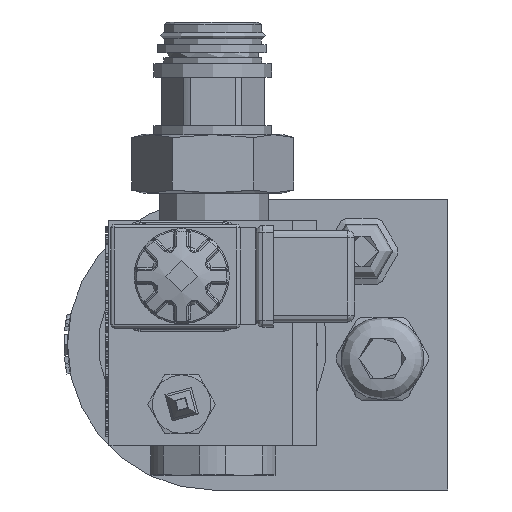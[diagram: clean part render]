
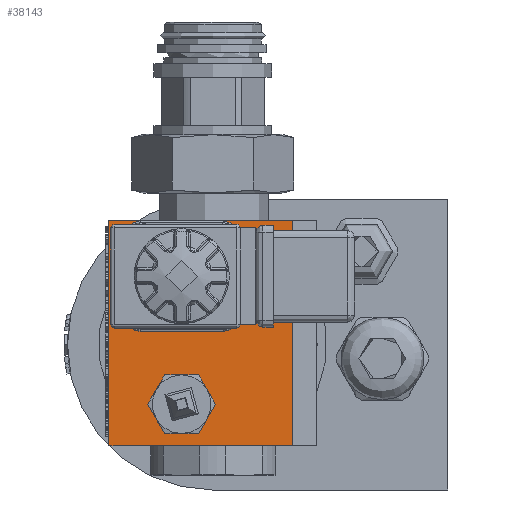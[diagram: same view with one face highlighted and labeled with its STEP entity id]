
A CAD part, left-side view. The second image highlights one B-rep face of the part: STEP entity #38143.
In plain terms, the highlighted planar face has unit normal (-1, 0, 0).
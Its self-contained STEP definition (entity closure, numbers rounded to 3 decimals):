
#1828=FACE_BOUND('',#7968,.T.);
#1829=FACE_BOUND('',#7969,.T.);
#5647=FACE_OUTER_BOUND('',#7967,.T.);
#7967=EDGE_LOOP('',(#33895,#33896,#33897,#33898));
#7968=EDGE_LOOP('',(#33899,#33900,#33901,#33902,#33903,#33904));
#7969=EDGE_LOOP('',(#33905,#33906,#33907,#33908,#33909,#33910,#33911,#33912));
#10491=LINE('',#62693,#13571);
#11010=LINE('',#75313,#14090);
#11015=LINE('',#75321,#14095);
#11022=LINE('',#75346,#14102);
#11092=LINE('',#75717,#14172);
#11093=LINE('',#75721,#14173);
#11094=LINE('',#75725,#14174);
#11095=LINE('',#75729,#14175);
#13571=VECTOR('',#44664,10.);
#14090=VECTOR('',#47711,10.);
#14095=VECTOR('',#47718,10.);
#14102=VECTOR('',#47749,10.);
#14172=VECTOR('',#47987,10.);
#14173=VECTOR('',#47990,10.);
#14174=VECTOR('',#47993,10.);
#14175=VECTOR('',#47996,10.);
#15112=CIRCLE('',#40340,8.5);
#15113=CIRCLE('',#40342,8.5);
#15114=CIRCLE('',#40344,8.5);
#15115=CIRCLE('',#40346,8.5);
#15116=CIRCLE('',#40348,8.5);
#15117=CIRCLE('',#40350,8.5);
#15198=CIRCLE('',#40539,3.975);
#15199=CIRCLE('',#40540,3.975);
#15200=CIRCLE('',#40541,3.975);
#15201=CIRCLE('',#40542,3.975);
#17522=VERTEX_POINT('',#62690);
#17523=VERTEX_POINT('',#62692);
#18341=VERTEX_POINT('',#75018);
#18342=VERTEX_POINT('',#75022);
#18343=VERTEX_POINT('',#75028);
#18346=VERTEX_POINT('',#75039);
#18348=VERTEX_POINT('',#75049);
#18349=VERTEX_POINT('',#75058);
#18415=VERTEX_POINT('',#75310);
#18416=VERTEX_POINT('',#75312);
#18520=VERTEX_POINT('',#75715);
#18521=VERTEX_POINT('',#75716);
#18522=VERTEX_POINT('',#75718);
#18523=VERTEX_POINT('',#75720);
#18524=VERTEX_POINT('',#75722);
#18525=VERTEX_POINT('',#75724);
#18526=VERTEX_POINT('',#75726);
#18527=VERTEX_POINT('',#75728);
#22012=EDGE_CURVE('',#17523,#17522,#10491,.T.);
#23436=EDGE_CURVE('',#18341,#18342,#15112,.T.);
#23438=EDGE_CURVE('',#18342,#18343,#15113,.T.);
#23442=EDGE_CURVE('',#18346,#18341,#15114,.T.);
#23445=EDGE_CURVE('',#18348,#18346,#15115,.T.);
#23447=EDGE_CURVE('',#18343,#18349,#15116,.T.);
#23450=EDGE_CURVE('',#18349,#18348,#15117,.T.);
#23553=EDGE_CURVE('',#18415,#18416,#11010,.T.);
#23558=EDGE_CURVE('',#18415,#17523,#11015,.T.);
#23570=EDGE_CURVE('',#17522,#18416,#11022,.T.);
#23711=EDGE_CURVE('',#18520,#18521,#11092,.T.);
#23712=EDGE_CURVE('',#18521,#18522,#15198,.T.);
#23713=EDGE_CURVE('',#18522,#18523,#11093,.T.);
#23714=EDGE_CURVE('',#18523,#18524,#15199,.T.);
#23715=EDGE_CURVE('',#18524,#18525,#11094,.T.);
#23716=EDGE_CURVE('',#18525,#18526,#15200,.T.);
#23717=EDGE_CURVE('',#18526,#18527,#11095,.T.);
#23718=EDGE_CURVE('',#18527,#18520,#15201,.T.);
#33895=ORIENTED_EDGE('',*,*,#23553,.F.);
#33896=ORIENTED_EDGE('',*,*,#23558,.T.);
#33897=ORIENTED_EDGE('',*,*,#22012,.T.);
#33898=ORIENTED_EDGE('',*,*,#23570,.T.);
#33899=ORIENTED_EDGE('',*,*,#23436,.T.);
#33900=ORIENTED_EDGE('',*,*,#23438,.T.);
#33901=ORIENTED_EDGE('',*,*,#23447,.T.);
#33902=ORIENTED_EDGE('',*,*,#23450,.T.);
#33903=ORIENTED_EDGE('',*,*,#23445,.T.);
#33904=ORIENTED_EDGE('',*,*,#23442,.T.);
#33905=ORIENTED_EDGE('',*,*,#23711,.T.);
#33906=ORIENTED_EDGE('',*,*,#23712,.T.);
#33907=ORIENTED_EDGE('',*,*,#23713,.T.);
#33908=ORIENTED_EDGE('',*,*,#23714,.T.);
#33909=ORIENTED_EDGE('',*,*,#23715,.T.);
#33910=ORIENTED_EDGE('',*,*,#23716,.T.);
#33911=ORIENTED_EDGE('',*,*,#23717,.T.);
#33912=ORIENTED_EDGE('',*,*,#23718,.T.);
#36138=PLANE('',#40538);
#38143=ADVANCED_FACE('',(#5647,#1828,#1829),#36138,.T.);
#40340=AXIS2_PLACEMENT_3D('',#75026,#47462,#47463);
#40342=AXIS2_PLACEMENT_3D('',#75033,#47466,#47467);
#40344=AXIS2_PLACEMENT_3D('',#75046,#47470,#47471);
#40346=AXIS2_PLACEMENT_3D('',#75056,#47474,#47475);
#40348=AXIS2_PLACEMENT_3D('',#75063,#47478,#47479);
#40350=AXIS2_PLACEMENT_3D('',#75072,#47482,#47483);
#40538=AXIS2_PLACEMENT_3D('',#75714,#47985,#47986);
#40539=AXIS2_PLACEMENT_3D('',#75719,#47988,#47989);
#40540=AXIS2_PLACEMENT_3D('',#75723,#47991,#47992);
#40541=AXIS2_PLACEMENT_3D('',#75727,#47994,#47995);
#40542=AXIS2_PLACEMENT_3D('',#75730,#47997,#47998);
#44664=DIRECTION('',(0.,0.,-1.));
#47462=DIRECTION('center_axis',(1.,0.,0.));
#47463=DIRECTION('ref_axis',(0.,-0.5,0.866));
#47466=DIRECTION('center_axis',(1.,0.,0.));
#47467=DIRECTION('ref_axis',(0.,-0.5,0.866));
#47470=DIRECTION('center_axis',(1.,0.,0.));
#47471=DIRECTION('ref_axis',(0.,-0.5,0.866));
#47474=DIRECTION('center_axis',(1.,0.,0.));
#47475=DIRECTION('ref_axis',(0.,-0.5,0.866));
#47478=DIRECTION('center_axis',(1.,0.,0.));
#47479=DIRECTION('ref_axis',(0.,-0.5,0.866));
#47482=DIRECTION('center_axis',(1.,0.,0.));
#47483=DIRECTION('ref_axis',(0.,-0.5,0.866));
#47711=DIRECTION('',(0.,0.,-1.));
#47718=DIRECTION('',(0.,1.,0.));
#47749=DIRECTION('',(0.,-1.,0.));
#47985=DIRECTION('center_axis',(-1.,0.,0.));
#47986=DIRECTION('ref_axis',(0.,0.,1.));
#47987=DIRECTION('',(0.,0.,1.));
#47988=DIRECTION('center_axis',(1.,0.,0.));
#47989=DIRECTION('ref_axis',(0.,0.,-1.));
#47990=DIRECTION('',(0.,-1.,0.));
#47991=DIRECTION('center_axis',(1.,0.,0.));
#47992=DIRECTION('ref_axis',(0.,0.,-1.));
#47993=DIRECTION('',(0.,0.,-1.));
#47994=DIRECTION('center_axis',(1.,0.,0.));
#47995=DIRECTION('ref_axis',(0.,0.,-1.));
#47996=DIRECTION('',(0.,1.,0.));
#47997=DIRECTION('center_axis',(1.,0.,0.));
#47998=DIRECTION('ref_axis',(0.,0.,-1.));
#62690=CARTESIAN_POINT('',(-28.,59.5,0.));
#62692=CARTESIAN_POINT('',(-28.,59.5,65.));
#62693=CARTESIAN_POINT('',(-28.,59.5,65.));
#75018=CARTESIAN_POINT('',(-28.,45.861,7.75));
#75022=CARTESIAN_POINT('',(-28.,45.861,16.25));
#75026=CARTESIAN_POINT('Origin',(-28.,38.5,12.));
#75028=CARTESIAN_POINT('',(-28.,38.5,20.5));
#75033=CARTESIAN_POINT('Origin',(-28.,38.5,12.));
#75039=CARTESIAN_POINT('',(-28.,38.5,3.5));
#75046=CARTESIAN_POINT('Origin',(-28.,38.5,12.));
#75049=CARTESIAN_POINT('',(-28.,31.139,7.75));
#75056=CARTESIAN_POINT('Origin',(-28.,38.5,12.));
#75058=CARTESIAN_POINT('',(-28.,31.139,16.25));
#75063=CARTESIAN_POINT('Origin',(-28.,38.5,12.));
#75072=CARTESIAN_POINT('Origin',(-28.,38.5,12.));
#75310=CARTESIAN_POINT('',(-28.,6.5,65.));
#75312=CARTESIAN_POINT('',(-28.,6.5,0.));
#75313=CARTESIAN_POINT('',(-28.,6.5,32.5));
#75321=CARTESIAN_POINT('',(-28.,-0.5,65.));
#75346=CARTESIAN_POINT('',(-28.,59.5,0.));
#75714=CARTESIAN_POINT('Origin',(-28.,29.5,32.5));
#75715=CARTESIAN_POINT('',(-28.,54.475,37.));
#75716=CARTESIAN_POINT('',(-28.,54.475,61.));
#75717=CARTESIAN_POINT('',(-28.,54.475,36.52));
#75718=CARTESIAN_POINT('',(-28.,50.5,64.975));
#75719=CARTESIAN_POINT('Origin',(-28.,50.5,61.));
#75720=CARTESIAN_POINT('',(-28.,26.5,64.975));
#75721=CARTESIAN_POINT('',(-28.,50.98,64.975));
#75722=CARTESIAN_POINT('',(-28.,22.525,61.));
#75723=CARTESIAN_POINT('Origin',(-28.,26.5,61.));
#75724=CARTESIAN_POINT('',(-28.,22.525,37.));
#75725=CARTESIAN_POINT('',(-28.,22.525,61.48));
#75726=CARTESIAN_POINT('',(-28.,26.5,33.025));
#75727=CARTESIAN_POINT('Origin',(-28.,26.5,37.));
#75728=CARTESIAN_POINT('',(-28.,50.5,33.025));
#75729=CARTESIAN_POINT('',(-28.,26.02,33.025));
#75730=CARTESIAN_POINT('Origin',(-28.,50.5,37.));
